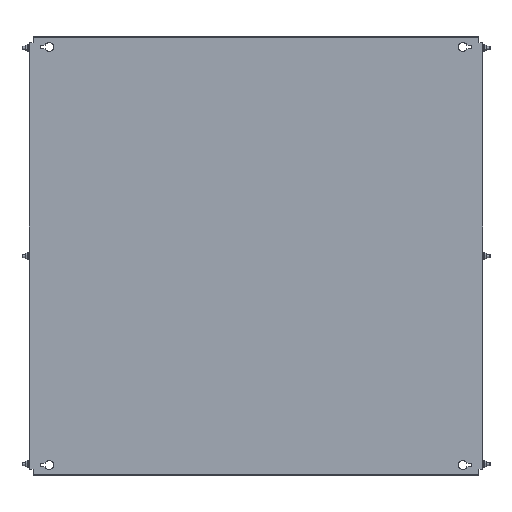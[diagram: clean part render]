
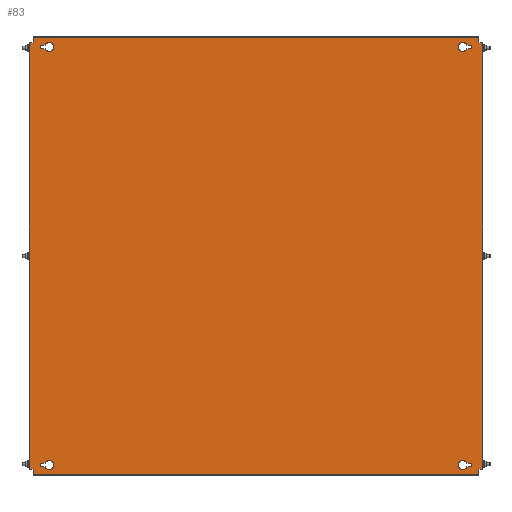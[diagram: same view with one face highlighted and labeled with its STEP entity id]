
A CAD part, top view. The second image highlights one B-rep face of the part: STEP entity #83.
In plain terms, the highlighted planar face has unit normal (0, 0, 1).
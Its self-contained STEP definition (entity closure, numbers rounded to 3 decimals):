
#83 = ADVANCED_FACE('',(#84,#119,#154,#316,#351),#386,.T.);
#84 = FACE_BOUND('',#85,.T.);
#85 = EDGE_LOOP('',(#86,#96,#104,#112));
#86 = ORIENTED_EDGE('',*,*,#87,.T.);
#87 = EDGE_CURVE('',#88,#90,#92,.T.);
#88 = VERTEX_POINT('',#89);
#89 = CARTESIAN_POINT('',(418.393,417.75,2.));
#90 = VERTEX_POINT('',#91);
#91 = CARTESIAN_POINT('',(428.,417.75,2.));
#92 = LINE('',#93,#94);
#93 = CARTESIAN_POINT('',(427.,417.75,2.));
#94 = VECTOR('',#95,1.);
#95 = DIRECTION('',(1.,0.,0.));
#96 = ORIENTED_EDGE('',*,*,#97,.T.);
#97 = EDGE_CURVE('',#90,#98,#100,.T.);
#98 = VERTEX_POINT('',#99);
#99 = CARTESIAN_POINT('',(428.,411.25,2.));
#100 = LINE('',#101,#102);
#101 = CARTESIAN_POINT('',(428.,417.75,2.));
#102 = VECTOR('',#103,1.);
#103 = DIRECTION('',(0.,-1.,0.));
#104 = ORIENTED_EDGE('',*,*,#105,.T.);
#105 = EDGE_CURVE('',#98,#106,#108,.T.);
#106 = VERTEX_POINT('',#107);
#107 = CARTESIAN_POINT('',(418.393,411.25,2.));
#108 = LINE('',#109,#110);
#109 = CARTESIAN_POINT('',(427.,411.25,2.));
#110 = VECTOR('',#111,1.);
#111 = DIRECTION('',(-1.,0.,0.));
#112 = ORIENTED_EDGE('',*,*,#113,.T.);
#113 = EDGE_CURVE('',#106,#88,#114,.T.);
#114 = CIRCLE('',#115,9.);
#115 = AXIS2_PLACEMENT_3D('',#116,#117,#118);
#116 = CARTESIAN_POINT('',(410.,414.5,2.));
#117 = DIRECTION('',(0.,0.,-1.));
#118 = DIRECTION('',(1.,0.,0.));
#119 = FACE_BOUND('',#120,.T.);
#120 = EDGE_LOOP('',(#121,#131,#139,#147));
#121 = ORIENTED_EDGE('',*,*,#122,.T.);
#122 = EDGE_CURVE('',#123,#125,#127,.T.);
#123 = VERTEX_POINT('',#124);
#124 = CARTESIAN_POINT('',(-418.393,-417.75,2.));
#125 = VERTEX_POINT('',#126);
#126 = CARTESIAN_POINT('',(-428.,-417.75,2.));
#127 = LINE('',#128,#129);
#128 = CARTESIAN_POINT('',(-427.,-417.75,2.));
#129 = VECTOR('',#130,1.);
#130 = DIRECTION('',(-1.,0.,0.));
#131 = ORIENTED_EDGE('',*,*,#132,.T.);
#132 = EDGE_CURVE('',#125,#133,#135,.T.);
#133 = VERTEX_POINT('',#134);
#134 = CARTESIAN_POINT('',(-428.,-411.25,2.));
#135 = LINE('',#136,#137);
#136 = CARTESIAN_POINT('',(-428.,-417.75,2.));
#137 = VECTOR('',#138,1.);
#138 = DIRECTION('',(0.,1.,0.));
#139 = ORIENTED_EDGE('',*,*,#140,.T.);
#140 = EDGE_CURVE('',#133,#141,#143,.T.);
#141 = VERTEX_POINT('',#142);
#142 = CARTESIAN_POINT('',(-418.393,-411.25,2.));
#143 = LINE('',#144,#145);
#144 = CARTESIAN_POINT('',(-427.,-411.25,2.));
#145 = VECTOR('',#146,1.);
#146 = DIRECTION('',(1.,-0.,-0.));
#147 = ORIENTED_EDGE('',*,*,#148,.T.);
#148 = EDGE_CURVE('',#141,#123,#149,.T.);
#149 = CIRCLE('',#150,9.);
#150 = AXIS2_PLACEMENT_3D('',#151,#152,#153);
#151 = CARTESIAN_POINT('',(-410.,-414.5,2.));
#152 = DIRECTION('',(0.,0.,-1.));
#153 = DIRECTION('',(-1.,0.,0.));
#154 = FACE_BOUND('',#155,.T.);
#155 = EDGE_LOOP('',(#156,#166,#174,#182,#190,#198,#206,#214,#222,#230,
    #238,#246,#254,#262,#270,#278,#286,#294,#302,#310));
#156 = ORIENTED_EDGE('',*,*,#157,.F.);
#157 = EDGE_CURVE('',#158,#160,#162,.T.);
#158 = VERTEX_POINT('',#159);
#159 = CARTESIAN_POINT('',(-447.4,422.5,2.));
#160 = VERTEX_POINT('',#161);
#161 = CARTESIAN_POINT('',(-442.,422.5,2.));
#162 = LINE('',#163,#164);
#163 = CARTESIAN_POINT('',(-448.,422.5,2.));
#164 = VECTOR('',#165,1.);
#165 = DIRECTION('',(1.,0.,-0.));
#166 = ORIENTED_EDGE('',*,*,#167,.T.);
#167 = EDGE_CURVE('',#158,#168,#170,.T.);
#168 = VERTEX_POINT('',#169);
#169 = CARTESIAN_POINT('',(-450.,422.5,2.));
#170 = LINE('',#171,#172);
#171 = CARTESIAN_POINT('',(-447.4,422.5,2.));
#172 = VECTOR('',#173,1.);
#173 = DIRECTION('',(-1.,0.,0.));
#174 = ORIENTED_EDGE('',*,*,#175,.F.);
#175 = EDGE_CURVE('',#176,#168,#178,.T.);
#176 = VERTEX_POINT('',#177);
#177 = CARTESIAN_POINT('',(-450.,-422.5,2.));
#178 = LINE('',#179,#180);
#179 = CARTESIAN_POINT('',(-450.,-432.5,2.));
#180 = VECTOR('',#181,1.);
#181 = DIRECTION('',(0.,1.,-0.));
#182 = ORIENTED_EDGE('',*,*,#183,.F.);
#183 = EDGE_CURVE('',#184,#176,#186,.T.);
#184 = VERTEX_POINT('',#185);
#185 = CARTESIAN_POINT('',(-447.4,-422.5,2.));
#186 = LINE('',#187,#188);
#187 = CARTESIAN_POINT('',(-442.,-422.5,2.));
#188 = VECTOR('',#189,1.);
#189 = DIRECTION('',(-1.,-0.,-0.));
#190 = ORIENTED_EDGE('',*,*,#191,.T.);
#191 = EDGE_CURVE('',#184,#192,#194,.T.);
#192 = VERTEX_POINT('',#193);
#193 = CARTESIAN_POINT('',(-442.,-422.5,2.));
#194 = LINE('',#195,#196);
#195 = CARTESIAN_POINT('',(-448.,-422.5,2.));
#196 = VECTOR('',#197,1.);
#197 = DIRECTION('',(1.,0.,-0.));
#198 = ORIENTED_EDGE('',*,*,#199,.T.);
#199 = EDGE_CURVE('',#192,#200,#202,.T.);
#200 = VERTEX_POINT('',#201);
#201 = CARTESIAN_POINT('',(-442.,-431.9,2.));
#202 = LINE('',#203,#204);
#203 = CARTESIAN_POINT('',(-442.,432.5,2.));
#204 = VECTOR('',#205,1.);
#205 = DIRECTION('',(0.,-1.,0.));
#206 = ORIENTED_EDGE('',*,*,#207,.T.);
#207 = EDGE_CURVE('',#200,#208,#210,.T.);
#208 = VERTEX_POINT('',#209);
#209 = CARTESIAN_POINT('',(-442.,-432.5,2.));
#210 = LINE('',#211,#212);
#211 = CARTESIAN_POINT('',(-442.,-431.9,2.));
#212 = VECTOR('',#213,1.);
#213 = DIRECTION('',(-0.,-1.,-0.));
#214 = ORIENTED_EDGE('',*,*,#215,.T.);
#215 = EDGE_CURVE('',#208,#216,#218,.T.);
#216 = VERTEX_POINT('',#217);
#217 = CARTESIAN_POINT('',(442.,-432.5,2.));
#218 = LINE('',#219,#220);
#219 = CARTESIAN_POINT('',(442.,-432.5,2.));
#220 = VECTOR('',#221,1.);
#221 = DIRECTION('',(1.,0.,0.));
#222 = ORIENTED_EDGE('',*,*,#223,.F.);
#223 = EDGE_CURVE('',#224,#216,#226,.T.);
#224 = VERTEX_POINT('',#225);
#225 = CARTESIAN_POINT('',(442.,-431.9,2.));
#226 = LINE('',#227,#228);
#227 = CARTESIAN_POINT('',(442.,-432.5,2.));
#228 = VECTOR('',#229,1.);
#229 = DIRECTION('',(0.,-1.,0.));
#230 = ORIENTED_EDGE('',*,*,#231,.T.);
#231 = EDGE_CURVE('',#224,#232,#234,.T.);
#232 = VERTEX_POINT('',#233);
#233 = CARTESIAN_POINT('',(442.,-422.5,2.));
#234 = LINE('',#235,#236);
#235 = CARTESIAN_POINT('',(442.,432.5,2.));
#236 = VECTOR('',#237,1.);
#237 = DIRECTION('',(0.,1.,-0.));
#238 = ORIENTED_EDGE('',*,*,#239,.F.);
#239 = EDGE_CURVE('',#240,#232,#242,.T.);
#240 = VERTEX_POINT('',#241);
#241 = CARTESIAN_POINT('',(447.4,-422.5,2.));
#242 = LINE('',#243,#244);
#243 = CARTESIAN_POINT('',(448.,-422.5,2.));
#244 = VECTOR('',#245,1.);
#245 = DIRECTION('',(-1.,0.,-0.));
#246 = ORIENTED_EDGE('',*,*,#247,.T.);
#247 = EDGE_CURVE('',#240,#248,#250,.T.);
#248 = VERTEX_POINT('',#249);
#249 = CARTESIAN_POINT('',(450.,-422.5,2.));
#250 = LINE('',#251,#252);
#251 = CARTESIAN_POINT('',(447.4,-422.5,2.));
#252 = VECTOR('',#253,1.);
#253 = DIRECTION('',(1.,-0.,0.));
#254 = ORIENTED_EDGE('',*,*,#255,.F.);
#255 = EDGE_CURVE('',#256,#248,#258,.T.);
#256 = VERTEX_POINT('',#257);
#257 = CARTESIAN_POINT('',(450.,422.5,2.));
#258 = LINE('',#259,#260);
#259 = CARTESIAN_POINT('',(450.,-432.5,2.));
#260 = VECTOR('',#261,1.);
#261 = DIRECTION('',(0.,-1.,-0.));
#262 = ORIENTED_EDGE('',*,*,#263,.F.);
#263 = EDGE_CURVE('',#264,#256,#266,.T.);
#264 = VERTEX_POINT('',#265);
#265 = CARTESIAN_POINT('',(447.4,422.5,2.));
#266 = LINE('',#267,#268);
#267 = CARTESIAN_POINT('',(-442.,422.5,2.));
#268 = VECTOR('',#269,1.);
#269 = DIRECTION('',(1.,-0.,0.));
#270 = ORIENTED_EDGE('',*,*,#271,.T.);
#271 = EDGE_CURVE('',#264,#272,#274,.T.);
#272 = VERTEX_POINT('',#273);
#273 = CARTESIAN_POINT('',(442.,422.5,2.));
#274 = LINE('',#275,#276);
#275 = CARTESIAN_POINT('',(448.,422.5,2.));
#276 = VECTOR('',#277,1.);
#277 = DIRECTION('',(-1.,0.,-0.));
#278 = ORIENTED_EDGE('',*,*,#279,.T.);
#279 = EDGE_CURVE('',#272,#280,#282,.T.);
#280 = VERTEX_POINT('',#281);
#281 = CARTESIAN_POINT('',(442.,431.9,2.));
#282 = LINE('',#283,#284);
#283 = CARTESIAN_POINT('',(442.,432.5,2.));
#284 = VECTOR('',#285,1.);
#285 = DIRECTION('',(0.,1.,-0.));
#286 = ORIENTED_EDGE('',*,*,#287,.T.);
#287 = EDGE_CURVE('',#280,#288,#290,.T.);
#288 = VERTEX_POINT('',#289);
#289 = CARTESIAN_POINT('',(442.,432.5,2.));
#290 = LINE('',#291,#292);
#291 = CARTESIAN_POINT('',(442.,431.9,2.));
#292 = VECTOR('',#293,1.);
#293 = DIRECTION('',(-0.,1.,-0.));
#294 = ORIENTED_EDGE('',*,*,#295,.T.);
#295 = EDGE_CURVE('',#288,#296,#298,.T.);
#296 = VERTEX_POINT('',#297);
#297 = CARTESIAN_POINT('',(-442.,432.5,2.));
#298 = LINE('',#299,#300);
#299 = CARTESIAN_POINT('',(-442.,432.5,2.));
#300 = VECTOR('',#301,1.);
#301 = DIRECTION('',(-1.,0.,0.));
#302 = ORIENTED_EDGE('',*,*,#303,.F.);
#303 = EDGE_CURVE('',#304,#296,#306,.T.);
#304 = VERTEX_POINT('',#305);
#305 = CARTESIAN_POINT('',(-442.,431.9,2.));
#306 = LINE('',#307,#308);
#307 = CARTESIAN_POINT('',(-442.,-432.5,2.));
#308 = VECTOR('',#309,1.);
#309 = DIRECTION('',(0.,1.,-0.));
#310 = ORIENTED_EDGE('',*,*,#311,.T.);
#311 = EDGE_CURVE('',#304,#160,#312,.T.);
#312 = LINE('',#313,#314);
#313 = CARTESIAN_POINT('',(-442.,432.5,2.));
#314 = VECTOR('',#315,1.);
#315 = DIRECTION('',(0.,-1.,0.));
#316 = FACE_BOUND('',#317,.T.);
#317 = EDGE_LOOP('',(#318,#328,#336,#344));
#318 = ORIENTED_EDGE('',*,*,#319,.F.);
#319 = EDGE_CURVE('',#320,#322,#324,.T.);
#320 = VERTEX_POINT('',#321);
#321 = CARTESIAN_POINT('',(428.,-411.25,2.));
#322 = VERTEX_POINT('',#323);
#323 = CARTESIAN_POINT('',(418.393,-411.25,2.));
#324 = LINE('',#325,#326);
#325 = CARTESIAN_POINT('',(418.393,-411.25,2.));
#326 = VECTOR('',#327,1.);
#327 = DIRECTION('',(-1.,0.,0.));
#328 = ORIENTED_EDGE('',*,*,#329,.F.);
#329 = EDGE_CURVE('',#330,#320,#332,.T.);
#330 = VERTEX_POINT('',#331);
#331 = CARTESIAN_POINT('',(428.,-417.75,2.));
#332 = LINE('',#333,#334);
#333 = CARTESIAN_POINT('',(428.,-411.25,2.));
#334 = VECTOR('',#335,1.);
#335 = DIRECTION('',(0.,1.,0.));
#336 = ORIENTED_EDGE('',*,*,#337,.F.);
#337 = EDGE_CURVE('',#338,#330,#340,.T.);
#338 = VERTEX_POINT('',#339);
#339 = CARTESIAN_POINT('',(418.393,-417.75,2.));
#340 = LINE('',#341,#342);
#341 = CARTESIAN_POINT('',(427.,-417.75,2.));
#342 = VECTOR('',#343,1.);
#343 = DIRECTION('',(1.,0.,0.));
#344 = ORIENTED_EDGE('',*,*,#345,.F.);
#345 = EDGE_CURVE('',#322,#338,#346,.T.);
#346 = CIRCLE('',#347,9.);
#347 = AXIS2_PLACEMENT_3D('',#348,#349,#350);
#348 = CARTESIAN_POINT('',(410.,-414.5,2.));
#349 = DIRECTION('',(0.,-0.,1.));
#350 = DIRECTION('',(1.,0.,0.));
#351 = FACE_BOUND('',#352,.T.);
#352 = EDGE_LOOP('',(#353,#363,#371,#379));
#353 = ORIENTED_EDGE('',*,*,#354,.F.);
#354 = EDGE_CURVE('',#355,#357,#359,.T.);
#355 = VERTEX_POINT('',#356);
#356 = CARTESIAN_POINT('',(-428.,411.25,2.));
#357 = VERTEX_POINT('',#358);
#358 = CARTESIAN_POINT('',(-418.393,411.25,2.));
#359 = LINE('',#360,#361);
#360 = CARTESIAN_POINT('',(-418.393,411.25,2.));
#361 = VECTOR('',#362,1.);
#362 = DIRECTION('',(1.,0.,0.));
#363 = ORIENTED_EDGE('',*,*,#364,.F.);
#364 = EDGE_CURVE('',#365,#355,#367,.T.);
#365 = VERTEX_POINT('',#366);
#366 = CARTESIAN_POINT('',(-428.,417.75,2.));
#367 = LINE('',#368,#369);
#368 = CARTESIAN_POINT('',(-428.,411.25,2.));
#369 = VECTOR('',#370,1.);
#370 = DIRECTION('',(0.,-1.,0.));
#371 = ORIENTED_EDGE('',*,*,#372,.F.);
#372 = EDGE_CURVE('',#373,#365,#375,.T.);
#373 = VERTEX_POINT('',#374);
#374 = CARTESIAN_POINT('',(-418.393,417.75,2.));
#375 = LINE('',#376,#377);
#376 = CARTESIAN_POINT('',(-427.,417.75,2.));
#377 = VECTOR('',#378,1.);
#378 = DIRECTION('',(-1.,0.,0.));
#379 = ORIENTED_EDGE('',*,*,#380,.F.);
#380 = EDGE_CURVE('',#357,#373,#381,.T.);
#381 = CIRCLE('',#382,9.);
#382 = AXIS2_PLACEMENT_3D('',#383,#384,#385);
#383 = CARTESIAN_POINT('',(-410.,414.5,2.));
#384 = DIRECTION('',(0.,-0.,1.));
#385 = DIRECTION('',(-1.,0.,0.));
#386 = PLANE('',#387);
#387 = AXIS2_PLACEMENT_3D('',#388,#389,#390);
#388 = CARTESIAN_POINT('',(-442.,-432.5,2.));
#389 = DIRECTION('',(-0.,0.,1.));
#390 = DIRECTION('',(1.,0.,0.));
